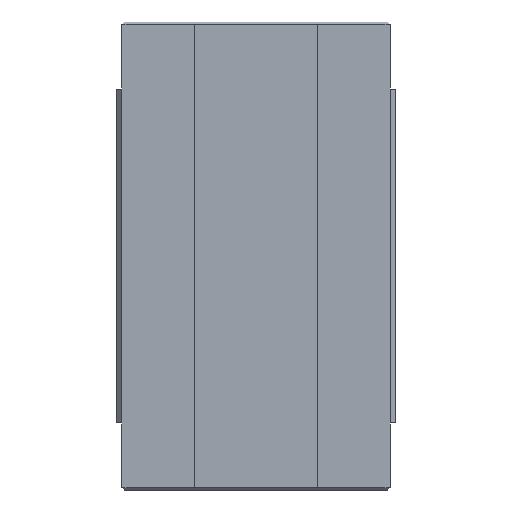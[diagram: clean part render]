
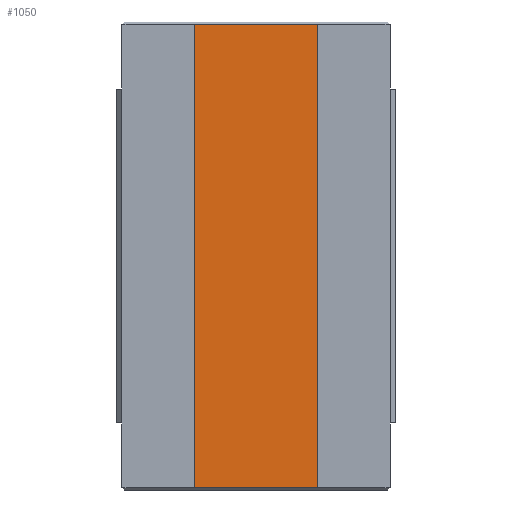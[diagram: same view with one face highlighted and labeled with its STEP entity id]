
A CAD part, front view. The second image highlights one B-rep face of the part: STEP entity #1050.
In plain terms, the highlighted planar face has unit normal (0, -1, 0).
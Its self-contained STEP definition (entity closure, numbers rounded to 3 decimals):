
#72=FACE_OUTER_BOUND('',#134,.T.);
#134=EDGE_LOOP('',(#745,#746,#747,#748));
#215=LINE('',#1546,#347);
#224=LINE('',#1564,#356);
#226=LINE('',#1568,#358);
#227=LINE('',#1569,#359);
#347=VECTOR('',#1247,10.);
#356=VECTOR('',#1262,10.);
#358=VECTOR('',#1266,10.);
#359=VECTOR('',#1267,10.);
#454=VERTEX_POINT('',#1494);
#469=VERTEX_POINT('',#1540);
#476=VERTEX_POINT('',#1563);
#477=VERTEX_POINT('',#1567);
#571=EDGE_CURVE('',#454,#469,#215,.T.);
#580=EDGE_CURVE('',#476,#469,#224,.T.);
#582=EDGE_CURVE('',#477,#454,#226,.T.);
#583=EDGE_CURVE('',#476,#477,#227,.T.);
#745=ORIENTED_EDGE('',*,*,#571,.F.);
#746=ORIENTED_EDGE('',*,*,#582,.F.);
#747=ORIENTED_EDGE('',*,*,#583,.F.);
#748=ORIENTED_EDGE('',*,*,#580,.T.);
#1000=PLANE('',#1132);
#1050=ADVANCED_FACE('',(#72),#1000,.T.);
#1132=AXIS2_PLACEMENT_3D('',#1566,#1264,#1265);
#1247=DIRECTION('',(1.,0.,0.));
#1262=DIRECTION('',(0.,0.,1.));
#1264=DIRECTION('center_axis',(0.,-1.,0.));
#1265=DIRECTION('ref_axis',(1.,0.,0.));
#1266=DIRECTION('',(0.,0.,1.));
#1267=DIRECTION('',(-1.,0.,0.));
#1494=CARTESIAN_POINT('',(-6.,8.,22.5));
#1540=CARTESIAN_POINT('',(6.,8.,22.5));
#1546=CARTESIAN_POINT('',(-3.,8.,22.5));
#1563=CARTESIAN_POINT('',(6.,8.,-22.5));
#1564=CARTESIAN_POINT('',(6.,8.,0.));
#1566=CARTESIAN_POINT('Origin',(-6.,8.,0.));
#1567=CARTESIAN_POINT('',(-6.,8.,-22.5));
#1568=CARTESIAN_POINT('',(-6.,8.,0.));
#1569=CARTESIAN_POINT('',(-3.,8.,-22.5));
